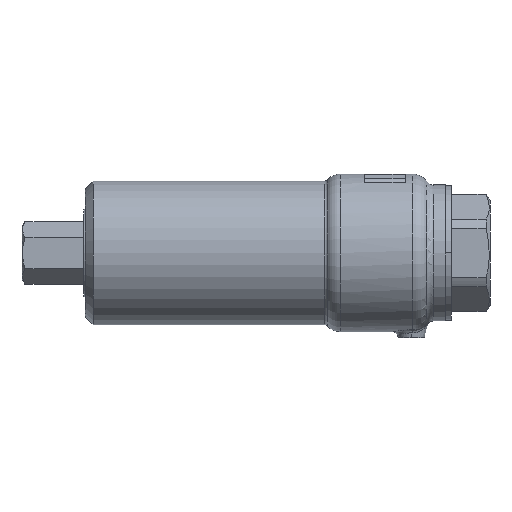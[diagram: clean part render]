
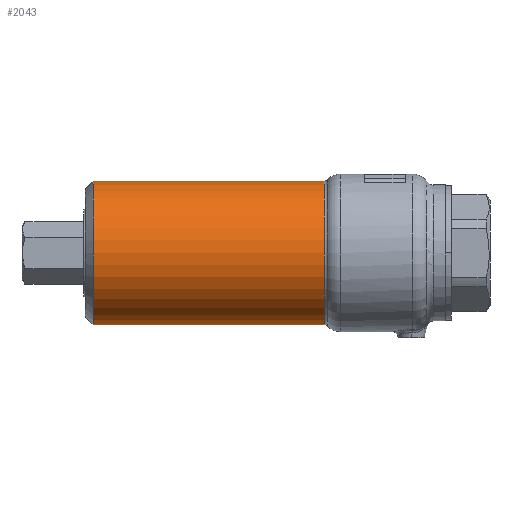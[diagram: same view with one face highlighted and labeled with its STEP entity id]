
A CAD part, left-side view. The second image highlights one B-rep face of the part: STEP entity #2043.
In plain terms, the highlighted cylindrical face has radius 46.5 mm (diameter 93 mm), a partial arc.
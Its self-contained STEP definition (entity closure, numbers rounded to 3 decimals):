
#145 = CARTESIAN_POINT ( 'NONE',  ( 0., 202.828, -46.5 ) ) ;
#210 = CARTESIAN_POINT ( 'NONE',  ( 0., 177., 0. ) ) ;
#257 = AXIS2_PLACEMENT_3D ( 'NONE', #3848, #710, #2467 ) ;
#341 = EDGE_CURVE ( 'NONE', #461, #1238, #1733, .T. ) ;
#377 = LINE ( 'NONE', #3193, #1073 ) ;
#397 = CARTESIAN_POINT ( 'NONE',  ( 0., 27.283, -46.5 ) ) ;
#461 = VERTEX_POINT ( 'NONE', #1503 ) ;
#710 = DIRECTION ( 'NONE',  ( 0., 1., 0. ) ) ;
#851 = CARTESIAN_POINT ( 'NONE',  ( 0., 27.283, 46.5 ) ) ;
#995 = VECTOR ( 'NONE', #3632, 1000. ) ;
#1073 = VECTOR ( 'NONE', #3873, 1000. ) ;
#1129 = DIRECTION ( 'NONE',  ( 0., 0., 1. ) ) ;
#1238 = VERTEX_POINT ( 'NONE', #4176 ) ;
#1503 = CARTESIAN_POINT ( 'NONE',  ( 0., 177., 46.5 ) ) ;
#1587 = ORIENTED_EDGE ( 'NONE', *, *, #1859, .T. ) ;
#1733 = CIRCLE ( 'NONE', #3660, 46.5 ) ;
#1828 = EDGE_CURVE ( 'NONE', #3470, #1238, #4336, .T. ) ;
#1832 = VERTEX_POINT ( 'NONE', #851 ) ;
#1859 = EDGE_CURVE ( 'NONE', #3470, #1832, #3606, .T. ) ;
#1890 = CARTESIAN_POINT ( 'NONE',  ( 0., 27.283, 0. ) ) ;
#2043 = ADVANCED_FACE ( 'NONE', ( #4263 ), #4561, .T. ) ;
#2061 = EDGE_CURVE ( 'NONE', #1832, #461, #377, .T. ) ;
#2467 = DIRECTION ( 'NONE',  ( 0., 0., 1. ) ) ;
#2752 = ORIENTED_EDGE ( 'NONE', *, *, #341, .T. ) ;
#3193 = CARTESIAN_POINT ( 'NONE',  ( 0., 202.828, 46.5 ) ) ;
#3239 = AXIS2_PLACEMENT_3D ( 'NONE', #1890, #3310, #1129 ) ;
#3310 = DIRECTION ( 'NONE',  ( 0., 1., 0. ) ) ;
#3470 = VERTEX_POINT ( 'NONE', #397 ) ;
#3475 = DIRECTION ( 'NONE',  ( 0., 0., 1. ) ) ;
#3552 = ORIENTED_EDGE ( 'NONE', *, *, #1828, .F. ) ;
#3599 = ORIENTED_EDGE ( 'NONE', *, *, #2061, .T. ) ;
#3606 = CIRCLE ( 'NONE', #3239, 46.5 ) ;
#3632 = DIRECTION ( 'NONE',  ( 0., 1., 0. ) ) ;
#3660 = AXIS2_PLACEMENT_3D ( 'NONE', #210, #4491, #3475 ) ;
#3800 = EDGE_LOOP ( 'NONE', ( #3552, #1587, #3599, #2752 ) ) ;
#3848 = CARTESIAN_POINT ( 'NONE',  ( 0., 202.828, 0. ) ) ;
#3873 = DIRECTION ( 'NONE',  ( 0., 1., 0. ) ) ;
#4176 = CARTESIAN_POINT ( 'NONE',  ( 0., 177., -46.5 ) ) ;
#4263 = FACE_OUTER_BOUND ( 'NONE', #3800, .T. ) ;
#4336 = LINE ( 'NONE', #145, #995 ) ;
#4491 = DIRECTION ( 'NONE',  ( 0., -1., 0. ) ) ;
#4561 = CYLINDRICAL_SURFACE ( 'NONE', #257, 46.5 ) ;
